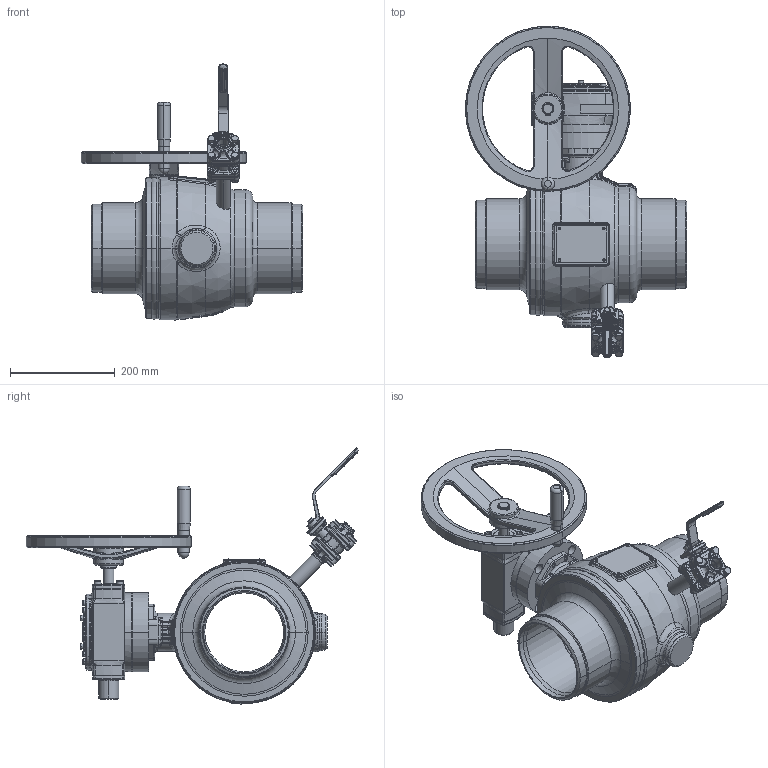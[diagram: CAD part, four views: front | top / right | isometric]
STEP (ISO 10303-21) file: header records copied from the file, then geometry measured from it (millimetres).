
FILE_DESCRIPTION((''),'2;1');
FILE_NAME('ASM0001_ASM','2026-01-28T09:52:12',('schwaba'),('KLINGER'),'CREO PARAMETRIC BY PTC INC, 2023014','CREO PARAMETRIC BY PTC INC, 2023014','');
FILE_SCHEMA(('CONFIG_CONTROL_DESIGN'));
Products named in the file (9): KHSVI_150_FG_FR_WE_F12_ENTL; GS63_3_F12_51; AUFSATZDECKEL_GS63-GS80; ZYLSCHR-ISKT--M8X25---8_8; AUMA-VE_DISTANZRING-20_05; AHR_315_20_M_BALLENGRIFF; DIN471_20X1_2; GS63_3_51_F12------------AHR315_ASM; ASM0001_ASM
Assembly tree (11 placements, depth 3):
  ASM0001_ASM
    KHSVI_150_FG_FR_WE_F12_ENTL
    GS63_3_51_F12------------AHR315_ASM
      GS63_3_F12_51
      AUFSATZDECKEL_GS63-GS80
      ZYLSCHR-ISKT--M8X25---8_8  x4
      AUMA-VE_DISTANZRING-20_05
      AHR_315_20_M_BALLENGRIFF
      DIN471_20X1_2
Bounding box: 422 x 632.4 x 488.12 mm (x, y, z)
Volume: 8665954 mm3; surface area: 1556237.4 mm2
Topology: 10 solids, 17 shells, 4184 faces, 9932 edges, 5897 vertices
Faces by surface type: plane 1224, cylinder 1057, bspline 662, torus 642, cone 485, sphere 93, revolution 16, extrusion 5
Entity records: 216492 total; most frequent: CARTESIAN_POINT 125978, ORIENTED_EDGE 19454, DIRECTION 18507, EDGE_CURVE 9730, AXIS2_PLACEMENT_3D 7790, VERTEX_POINT 5792, EDGE_LOOP 4382, CIRCLE 4327
